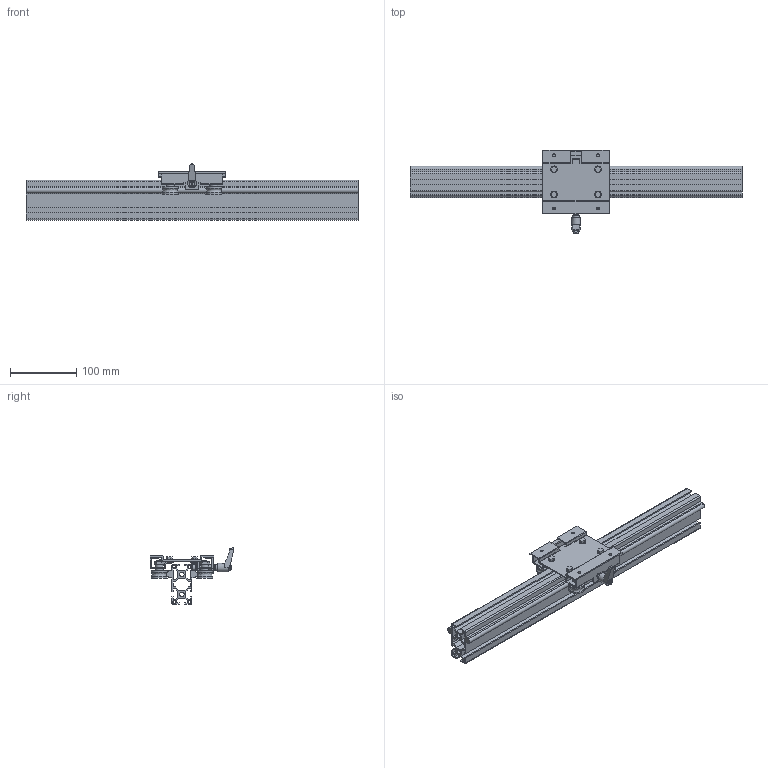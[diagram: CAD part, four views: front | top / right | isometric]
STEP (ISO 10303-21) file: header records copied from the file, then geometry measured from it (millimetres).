
FILE_DESCRIPTION((''),'2;1');
FILE_NAME('C:\Documents and Settings\土屋\My Documents\土屋移動用フォルダ\製品 (図面3D用)\LSダウンロード用図面\新型キャリッジ\step形式(ダウンロード用)\LS3060BC.stp','2018-08-03T16:13:00',('y'),(''),'Autodesk Inventor 11','Autodesk Inventor 11','');
FILE_SCHEMA(('AUTOMOTIVE_DESIGN { 1 0 10303 214 1 1 1 1 }'));
Length unit declared in the file: millimetre
Products named in the file (4): LS3060BC; LS3060BCレール; LS3060BCキャリッジ; LS3060BC用クランプ
Assembly tree (3 placements, depth 2):
  LS3060BC
    LS3060BCレール
    LS3060BCキャリッジ
    LS3060BC用クランプ
Bounding box: 500 x 126.5 x 85.2 mm (x, y, z)
Volume: 473394.1 mm3; surface area: 345009.4 mm2
Topology: 7 solids, 7 shells, 459 faces, 1163 edges, 748 vertices
Faces by surface type: plane 267, cylinder 103, cone 77, bspline 12
Full cylindrical faces by diameter (mm): 4 x2, 4.2 x4, 6 x1, 6.8 x2, 8 x12, 10 x5, 12 x4, 12.3 x4, 13 x1, 24 x8
Entity records: 13802 total; most frequent: CARTESIAN_POINT 3136, ORIENTED_EDGE 2146, DIRECTION 2144, EDGE_CURVE 1073, AXIS2_PLACEMENT_3D 747, VERTEX_POINT 730, VECTOR 650, LINE 650
